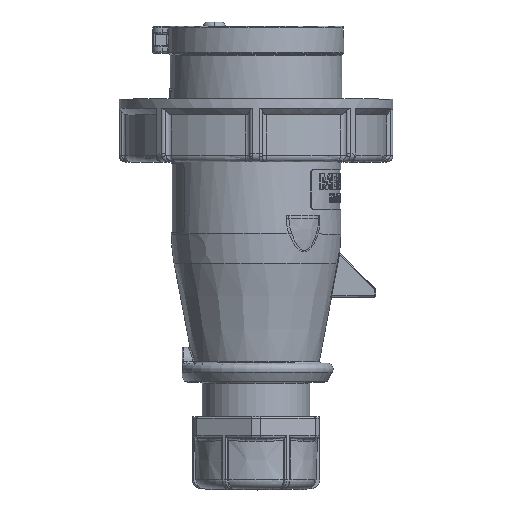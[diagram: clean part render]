
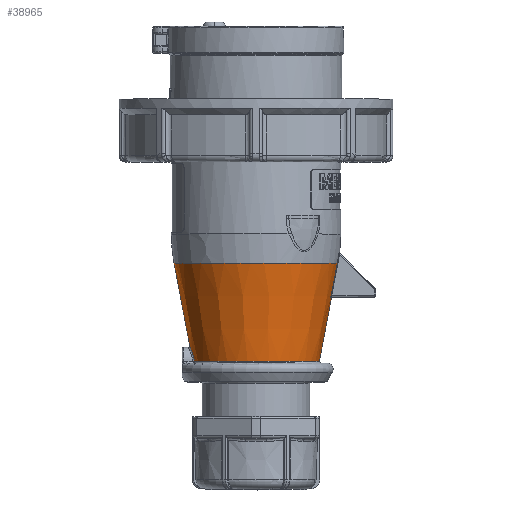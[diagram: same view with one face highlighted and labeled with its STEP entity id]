
A CAD part, top view. The second image highlights one B-rep face of the part: STEP entity #38965.
In plain terms, the highlighted conical face has half-angle 10.766 degrees and reference radius 23.066 mm.
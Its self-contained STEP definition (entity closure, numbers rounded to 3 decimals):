
#2859=DIRECTION('',(-0.187,0.982,0.));
#2860=VECTOR('',#2859,26.534);
#2861=CARTESIAN_POINT('',(-21.064,-64.907,0.));
#2862=LINE('2841',#2861,#2860);
#2863=DIRECTION('',(0.187,0.982,0.));
#2864=VECTOR('',#2863,20.442);
#2865=CARTESIAN_POINT('',(20.113,-69.907,0.));
#2866=LINE('2903',#2865,#2864);
#2896=CARTESIAN_POINT('',(0.,-49.824,0.));
#2897=DIRECTION('',(0.,-1.,0.));
#2898=DIRECTION('',(1.,0.,0.));
#2899=AXIS2_PLACEMENT_3D('',#2896,#2897,#2898);
#2913=CARTESIAN_POINT('',(23.805,-49.075,3.585));
#2914=CARTESIAN_POINT('',(24.019,-47.965,3.584));
#2915=CARTESIAN_POINT('',(24.45,-45.727,3.581));
#2916=CARTESIAN_POINT('',(25.106,-42.315,3.576));
#2917=CARTESIAN_POINT('',(25.55,-40.004,3.573));
#2918=CARTESIAN_POINT('',(25.774,-38.84,3.571));
#2939=CARTESIAN_POINT('',(0.,-38.84,0.));
#2940=DIRECTION('',(0.,-1.,0.));
#2941=DIRECTION('',(0.991,0.,0.137));
#2942=AXIS2_PLACEMENT_3D('',#2939,#2940,#2941);
#3481=CARTESIAN_POINT('',(23.762,-49.825,2.843));
#3482=CARTESIAN_POINT('',(23.755,-49.826,2.898));
#3483=CARTESIAN_POINT('',(23.744,-49.814,3.006));
#3484=CARTESIAN_POINT('',(23.734,-49.759,3.165));
#3485=CARTESIAN_POINT('',(23.732,-49.67,3.306));
#3486=CARTESIAN_POINT('',(23.737,-49.552,3.425));
#3487=CARTESIAN_POINT('',(23.752,-49.409,3.515));
#3488=CARTESIAN_POINT('',(23.774,-49.247,3.572));
#3489=CARTESIAN_POINT('',(23.794,-49.134,3.585));
#3490=CARTESIAN_POINT('',(23.805,-49.075,3.585));
#3770=CARTESIAN_POINT('',(0.,-69.907,0.));
#3771=DIRECTION('',(0.,-1.,0.));
#3772=DIRECTION('',(1.,0.,0.));
#3773=AXIS2_PLACEMENT_3D('',#3770,#3771,#3772);
#3911=CARTESIAN_POINT('',(-19.512,-69.907,
4.881));
#3912=CARTESIAN_POINT('',(-19.558,-69.669,
4.881));
#3913=CARTESIAN_POINT('',(-19.659,-69.194,
4.849));
#3914=CARTESIAN_POINT('',(-19.838,-68.47,
4.695));
#3915=CARTESIAN_POINT('',(-20.034,-67.775,
4.437));
#3916=CARTESIAN_POINT('',(-20.236,-67.125,
4.08));
#3917=CARTESIAN_POINT('',(-20.434,-66.54,
3.636));
#3918=CARTESIAN_POINT('',(-20.617,-66.036,
3.119));
#3919=CARTESIAN_POINT('',(-20.775,-65.62,
2.547));
#3920=CARTESIAN_POINT('',(-20.903,-65.299,
1.937));
#3921=CARTESIAN_POINT('',(-20.995,-65.071,
1.301));
#3922=CARTESIAN_POINT('',(-21.051,-64.936,
0.649));
#3923=CARTESIAN_POINT('',(-21.064,-64.907,
0.217));
#3924=CARTESIAN_POINT('',(-21.064,-64.907,0.));
#27490=CARTESIAN_POINT('',(-26.02,-38.84,0.));
#27492=VERTEX_POINT('',#27490);
#28127=CARTESIAN_POINT('',(20.113,-69.907,0.));
#28128=CARTESIAN_POINT('',(-19.512,-69.907,
4.881));
#28129=VERTEX_POINT('',#28127);
#28130=VERTEX_POINT('',#28128);
#28138=VERTEX_POINT('',#3924);
#28161=VERTEX_POINT('',#2913);
#28162=VERTEX_POINT('',#2918);
#28164=VERTEX_POINT('',#3481);
#28166=CARTESIAN_POINT('',(23.931,-49.824,0.));
#28167=VERTEX_POINT('',#28166);
#38945=CARTESIAN_POINT('',(0.,-54.373,0.));
#38946=DIRECTION('',(0.,1.,0.));
#38947=DIRECTION('',(1.,0.,0.));
#38948=AXIS2_PLACEMENT_3D('',#38945,#38946,#38947);
#38949=CONICAL_SURFACE('407',#38948,23.066,10.766);
#38951=ORIENTED_EDGE('2861',*,*,#38950,.F.);
#38953=ORIENTED_EDGE('2863',*,*,#38952,.F.);
#38954=ORIENTED_EDGE('2865',*,*,#38926,.F.);
#38955=ORIENTED_EDGE('2903',*,*,#38806,.F.);
#38957=ORIENTED_EDGE('2823',*,*,#38956,.T.);
#38959=ORIENTED_EDGE('2828',*,*,#38958,.T.);
#38960=ORIENTED_EDGE('2841',*,*,#38800,.T.);
#38962=ORIENTED_EDGE('2883',*,*,#38961,.F.);
#38963=EDGE_LOOP('407',(#38951,#38953,#38954,#38955,#38957,#38959,#38960,
#38962));
#38964=FACE_OUTER_BOUND('407',#38963,.F.);
#2900=CIRCLE('2865',#2899,23.931);
#2919=B_SPLINE_CURVE_WITH_KNOTS('2861',3,(#2913,#2914,#2915,#2916,#2917,#2918),
.UNSPECIFIED.,.F.,.F.,(4,1,1,4),(0.,0.333,0.667,1.),
.UNSPECIFIED.);
#2943=CIRCLE('2883',#2942,26.02);
#3491=B_SPLINE_CURVE_WITH_KNOTS('2863',3,(#3481,#3482,#3483,#3484,#3485,#3486,
#3487,#3488,#3489,#3490),.UNSPECIFIED.,.F.,.F.,(4,1,1,1,1,1,1,4),(0.,
0.143,0.286,0.429,0.571,
0.714,0.857,1.),.UNSPECIFIED.);
#3774=CIRCLE('2823',#3773,20.113);
#3925=B_SPLINE_CURVE_WITH_KNOTS('2828',3,(#3911,#3912,#3913,#3914,#3915,#3916,
#3917,#3918,#3919,#3920,#3921,#3922,#3923,#3924),.UNSPECIFIED.,.F.,.F.,(4,1,1,1,
1,1,1,1,1,1,1,4),(0.,0.091,0.182,0.273,
0.364,0.455,0.545,0.636,
0.727,0.818,0.909,1.),.UNSPECIFIED.);
#38800=EDGE_CURVE('2841',#28138,#27492,#2862,.T.);
#38806=EDGE_CURVE('2903',#28129,#28167,#2866,.T.);
#38926=EDGE_CURVE('2865',#28167,#28164,#2900,.T.);
#38950=EDGE_CURVE('2861',#28161,#28162,#2919,.T.);
#38952=EDGE_CURVE('2863',#28164,#28161,#3491,.T.);
#38956=EDGE_CURVE('2823',#28129,#28130,#3774,.T.);
#38958=EDGE_CURVE('2828',#28130,#28138,#3925,.T.);
#38961=EDGE_CURVE('2883',#28162,#27492,#2943,.T.);
#38965=ADVANCED_FACE('407',(#38964),#38949,.T.);
